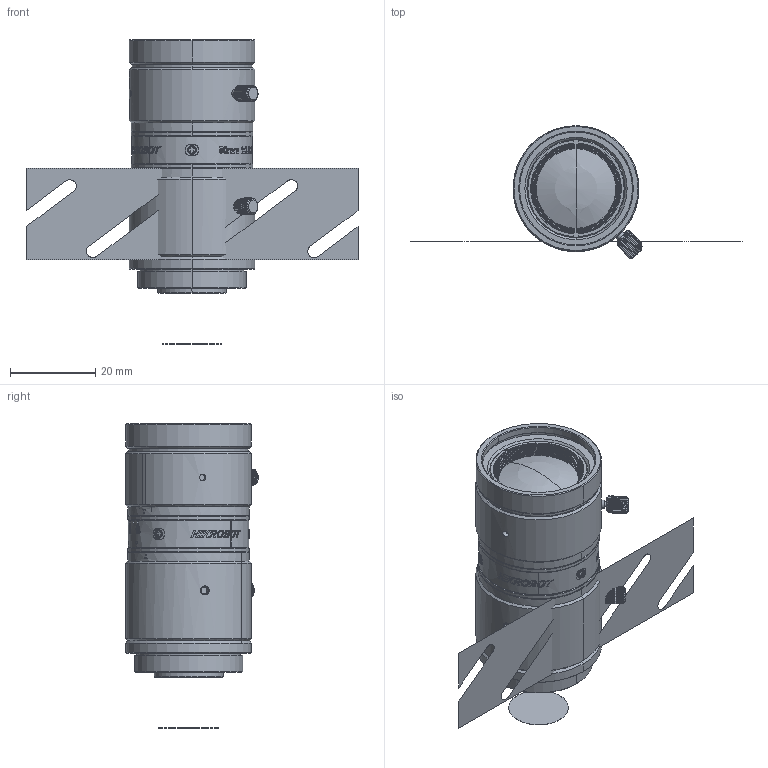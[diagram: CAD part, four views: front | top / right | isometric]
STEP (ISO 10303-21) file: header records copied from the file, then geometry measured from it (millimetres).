
FILE_DESCRIPTION((''),'2;1');
FILE_NAME('MVL-MF5028M-8MP','2021-01-21T15:03:09',('dihaoping'),(''),'CREO PARAMETRIC BY PTC INC, 2017260','CREO PARAMETRIC BY PTC INC, 2017260','');
FILE_SCHEMA(('CONFIG_CONTROL_DESIGN'));
Length unit declared in the file: millimetre
Products named in the file (1): MVL-MF5028M-8MP
Bounding box: 77.91 x 31.12 x 71.38 mm (x, y, z)
Volume: 35928.2 mm3; surface area: 12788.8 mm2
Topology: 2 solids, 24 shells, 1391 faces, 3860 edges, 2535 vertices
Faces by surface type: bspline 516, plane 484, cylinder 296, cone 82, torus 6, sphere 6, extrusion 1
Entity records: 59147 total; most frequent: CARTESIAN_POINT 26868, ORIENTED_EDGE 7526, DIRECTION 5299, EDGE_CURVE 3816, VERTEX_POINT 2535, AXIS2_PLACEMENT_3D 1867, VECTOR 1565, LINE 1564
